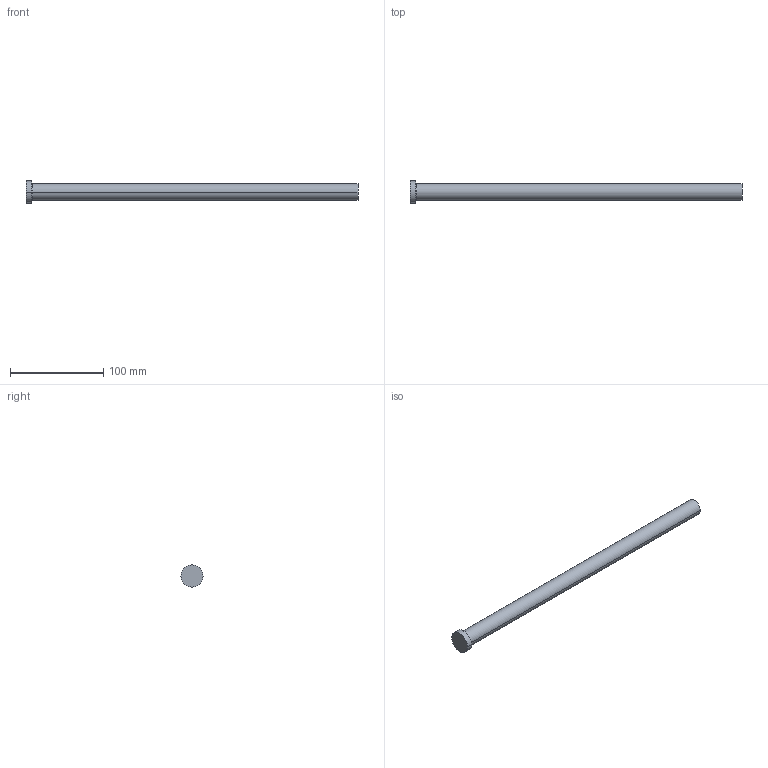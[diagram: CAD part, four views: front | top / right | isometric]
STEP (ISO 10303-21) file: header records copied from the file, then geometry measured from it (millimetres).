
FILE_DESCRIPTION (( 'STEP AP214' ), '1' );
FILE_NAME ('P39-14.STEP', '2020-03-12T12:13:30', ( '' ), ( '' ), 'SwSTEP 2.0', 'SolidWorks 2018', '' );
FILE_SCHEMA (( 'AUTOMOTIVE_DESIGN' ));
Length unit declared in the file: inch
Products named in the file (1): P39-14
Bounding box: 355.6 x 23.81 x 23.81 mm (x, y, z)
Volume: 86357.4 mm3; surface area: 20485.1 mm2
Topology: 1 solids, 1 shells, 13 faces, 24 edges, 14 vertices
Faces by surface type: cone 4, cylinder 4, plane 3, torus 2
Entity records: 366 total; most frequent: DIRECTION 68, CARTESIAN_POINT 52, ORIENTED_EDGE 48, AXIS2_PLACEMENT_3D 30, EDGE_CURVE 24, CIRCLE 16, VERTEX_POINT 14, EDGE_LOOP 14
